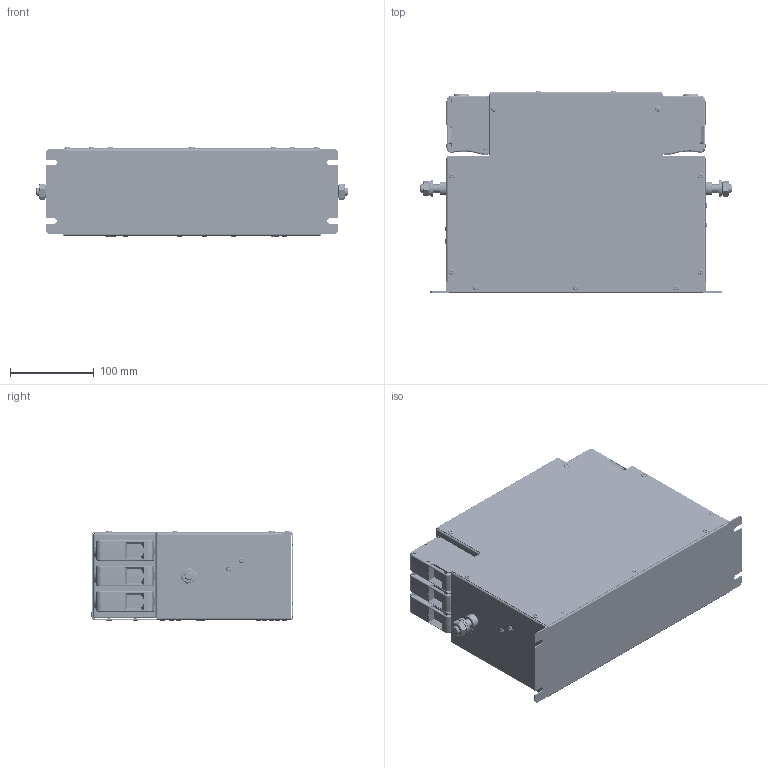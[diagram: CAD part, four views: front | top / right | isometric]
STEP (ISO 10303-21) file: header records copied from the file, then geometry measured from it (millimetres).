
FILE_DESCRIPTION(/* description */ (''),/* implementation_level */ '2;1');
FILE_NAME(/* name */ 'C:\Users\Gino.Rovitti\OneDrive - Schaffner EMV AG\Desktop\FN3287_FN3288X-230.stp',/* time_stamp */ '2021-12-03T09:05:16+01:00',/* author */ ('gino.rovitti'),/* organization */ (''),/* preprocessor_version */ 'ST-DEVELOPER v18.1',/* originating_system */ 'Autodesk Inventor 2020',/* authorisation */ '');
FILE_SCHEMA (('AUTOMOTIVE_DESIGN { 1 0 10303 214 3 1 1 }'));
Products named in the file (1): 88-230
Bounding box: 372.6 x 241.4 x 107.8 mm (x, y, z)
Volume: 999788.5 mm3; surface area: 606627.2 mm2
Topology: 1 solids, 1 shells, 5312 faces, 12939 edges, 7535 vertices
Faces by surface type: cylinder 1733, plane 1575, bspline 1296, torus 378, cone 246, sphere 84
Full cylindrical faces by diameter (mm): 2 x30, 3.2 x30, 3.3 x13, 3.4 x30, 3.5 x30, 4.82 x4, 4.881 x6, 5.2 x30, 6.5 x30, 8.3 x6, 9.188 x2, 10 x4, 10.5 x2, 11 x2, 12 x2, 12.7 x2, 15.4 x2, 16.5 x2, 20 x2
Entity records: 203590 total; most frequent: CARTESIAN_POINT 79310, ORIENTED_EDGE 25410, DIRECTION 25084, EDGE_CURVE 12705, AXIS2_PLACEMENT_3D 9934, VERTEX_POINT 7535, EDGE_LOOP 5548, ADVANCED_FACE 5312
